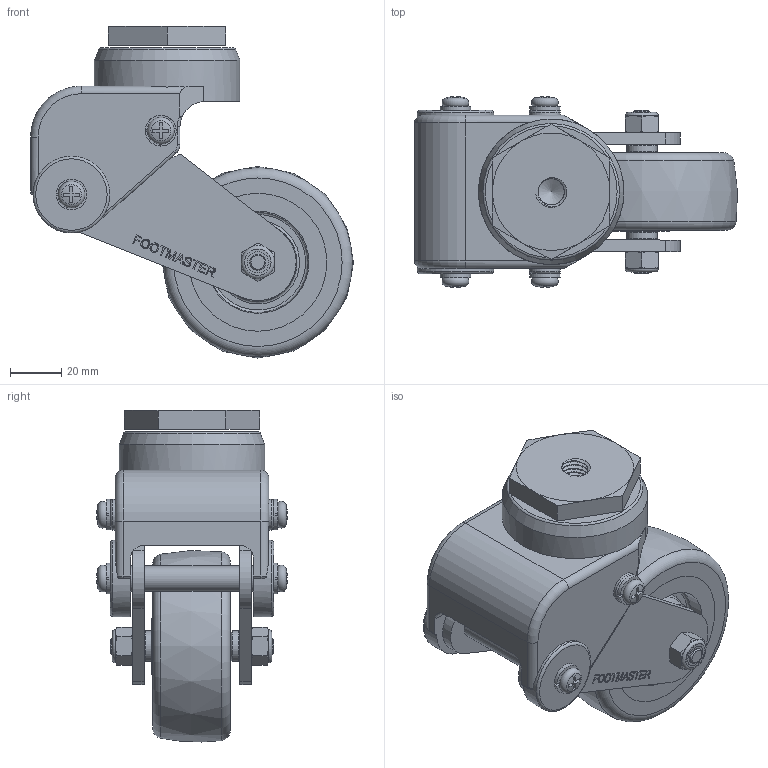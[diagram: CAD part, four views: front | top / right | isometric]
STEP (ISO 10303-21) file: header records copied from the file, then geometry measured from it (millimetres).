
FILE_DESCRIPTION(/* description */ (''),/* implementation_level */ '2;1');
FILE_NAME(/* name */ 'D:/GDS-75-ASS-LUD v4.step',/* time_stamp */ '2019-04-16T11:51:23+09:00',/* author */ ('hoya0806@gdok.co.kr'),/* organization */ (''),/* preprocessor_version */ 'ST-DEVELOPER v18',/* originating_system */ 'Autodesk Translation Framework v8.2.0.1029',/* authorisation */ '');
FILE_SCHEMA (('AUTOMOTIVE_DESIGN { 1 0 10303 214 3 1 1 }'));
Length unit declared in the file: millimetre
Products named in the file (12): GDS-75-ASS-LUD; S10020; Wheel; Component5; Component6; Leg; Inner Washer; 95003A102; Nylon Nut M8 v1; 94645A210; Nylon Nut M8 v1 (1); 94645A210 (1)
Assembly tree (13 placements, depth 3):
  GDS-75-ASS-LUD
    S10020
    Leg  x2
    Inner Washer  x2
    Wheel
      Component5
      Component6
    95003A102
    Nylon Nut M8 v1
      94645A210
    Nylon Nut M8 v1 (1)
      94645A210 (1)
Bounding box: 126.44 x 74.74 x 129.99 mm (x, y, z)
Volume: 268302.8 mm3; surface area: 82547.7 mm2
Topology: 14 solids, 16 shells, 766 faces, 2047 edges, 1352 vertices
Faces by surface type: plane 360, bspline 199, cylinder 125, cone 52, torus 30
Full cylindrical faces by diameter (mm): 6 x6, 6.376 x12, 6.684 x2, 8 x8, 8.2 x2, 8.355 x2, 10 x1, 10.1 x2, 10.2 x2, 10.274 x7, 12 x4, 12.226 x7, 22 x2, 30 x2, 54 x2, 57 x1
Entity records: 26018 total; most frequent: CARTESIAN_POINT 12817, ORIENTED_EDGE 2910, DIRECTION 2346, EDGE_CURVE 1455, VERTEX_POINT 960, AXIS2_PLACEMENT_3D 833, LINE 680, VECTOR 680
